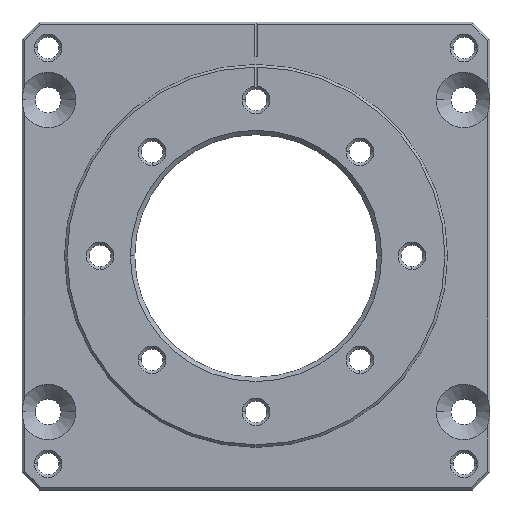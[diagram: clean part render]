
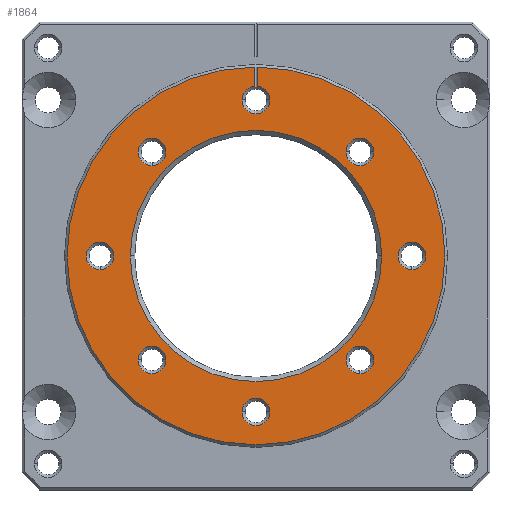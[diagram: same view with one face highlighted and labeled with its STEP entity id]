
A CAD part, top view. The second image highlights one B-rep face of the part: STEP entity #1864.
In plain terms, the highlighted planar face has unit normal (0, 0, 1).
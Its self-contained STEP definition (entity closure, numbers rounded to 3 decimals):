
#258=CARTESIAN_POINT('',(0.,0.,3.));
#259=DIRECTION('',(0.,0.,-1.));
#260=DIRECTION('',(1.,0.,0.));
#261=AXIS2_PLACEMENT_3D('',#258,#259,#260);
#263=CARTESIAN_POINT('',(0.,0.,3.));
#264=DIRECTION('',(0.,0.,-1.));
#265=DIRECTION('',(-1.,0.,0.));
#266=AXIS2_PLACEMENT_3D('',#263,#264,#265);
#268=CARTESIAN_POINT('',(0.,18.,3.));
#269=DIRECTION('',(0.,0.,1.));
#270=DIRECTION('',(-1.,0.,0.));
#271=AXIS2_PLACEMENT_3D('',#268,#269,#270);
#273=CARTESIAN_POINT('',(0.,18.,3.));
#274=DIRECTION('',(0.,0.,1.));
#275=DIRECTION('',(1.,0.,0.));
#276=AXIS2_PLACEMENT_3D('',#273,#274,#275);
#278=DIRECTION('',(0.,-1.,0.));
#279=VECTOR('',#278,2.207);
#280=CARTESIAN_POINT('',(0.15,21.799,3.));
#281=LINE('',#280,#279);
#282=CARTESIAN_POINT('',(0.,0.,3.));
#283=DIRECTION('',(0.,0.,1.));
#284=DIRECTION('',(1.,0.,0.));
#285=AXIS2_PLACEMENT_3D('',#282,#283,#284);
#287=CARTESIAN_POINT('',(0.,0.,3.));
#288=DIRECTION('',(0.,0.,1.));
#289=DIRECTION('',(-1.,0.,0.));
#290=AXIS2_PLACEMENT_3D('',#287,#288,#289);
#292=CARTESIAN_POINT('',(0.,0.,3.));
#293=DIRECTION('',(0.,0.,1.));
#294=DIRECTION('',(-0.007,1.,0.));
#295=AXIS2_PLACEMENT_3D('',#292,#293,#294);
#297=DIRECTION('',(0.,-1.,0.));
#298=VECTOR('',#297,2.207);
#299=CARTESIAN_POINT('',(-0.15,21.799,3.));
#300=LINE('',#299,#298);
#301=CARTESIAN_POINT('',(0.,18.,3.));
#302=DIRECTION('',(0.,0.,1.));
#303=DIRECTION('',(-0.094,0.996,0.));
#304=AXIS2_PLACEMENT_3D('',#301,#302,#303);
#306=CARTESIAN_POINT('',(18.,0.,3.));
#307=DIRECTION('',(0.,0.,1.));
#308=DIRECTION('',(0.,1.,0.));
#309=AXIS2_PLACEMENT_3D('',#306,#307,#308);
#311=CARTESIAN_POINT('',(18.,0.,3.));
#312=DIRECTION('',(0.,0.,1.));
#313=DIRECTION('',(0.,-1.,0.));
#314=AXIS2_PLACEMENT_3D('',#311,#312,#313);
#316=CARTESIAN_POINT('',(0.,-18.,3.));
#317=DIRECTION('',(0.,0.,1.));
#318=DIRECTION('',(1.,0.,0.));
#319=AXIS2_PLACEMENT_3D('',#316,#317,#318);
#321=CARTESIAN_POINT('',(0.,-18.,3.));
#322=DIRECTION('',(0.,0.,1.));
#323=DIRECTION('',(-1.,0.,0.));
#324=AXIS2_PLACEMENT_3D('',#321,#322,#323);
#326=CARTESIAN_POINT('',(-18.,0.,3.));
#327=DIRECTION('',(0.,0.,1.));
#328=DIRECTION('',(0.,-1.,0.));
#329=AXIS2_PLACEMENT_3D('',#326,#327,#328);
#331=CARTESIAN_POINT('',(-18.,0.,3.));
#332=DIRECTION('',(0.,0.,1.));
#333=DIRECTION('',(0.,1.,0.));
#334=AXIS2_PLACEMENT_3D('',#331,#332,#333);
#336=CARTESIAN_POINT('',(12.,12.,3.));
#337=DIRECTION('',(0.,0.,1.));
#338=DIRECTION('',(-1.,0.,0.));
#339=AXIS2_PLACEMENT_3D('',#336,#337,#338);
#341=CARTESIAN_POINT('',(12.,12.,3.));
#342=DIRECTION('',(0.,0.,1.));
#343=DIRECTION('',(1.,0.,0.));
#344=AXIS2_PLACEMENT_3D('',#341,#342,#343);
#346=CARTESIAN_POINT('',(12.,-12.,3.));
#347=DIRECTION('',(0.,0.,1.));
#348=DIRECTION('',(0.,1.,0.));
#349=AXIS2_PLACEMENT_3D('',#346,#347,#348);
#351=CARTESIAN_POINT('',(12.,-12.,3.));
#352=DIRECTION('',(0.,0.,1.));
#353=DIRECTION('',(0.,-1.,0.));
#354=AXIS2_PLACEMENT_3D('',#351,#352,#353);
#356=CARTESIAN_POINT('',(-12.,-12.,3.));
#357=DIRECTION('',(0.,0.,1.));
#358=DIRECTION('',(1.,0.,0.));
#359=AXIS2_PLACEMENT_3D('',#356,#357,#358);
#361=CARTESIAN_POINT('',(-12.,-12.,3.));
#362=DIRECTION('',(0.,0.,1.));
#363=DIRECTION('',(-1.,0.,0.));
#364=AXIS2_PLACEMENT_3D('',#361,#362,#363);
#366=CARTESIAN_POINT('',(-12.,12.,3.));
#367=DIRECTION('',(0.,0.,1.));
#368=DIRECTION('',(0.,-1.,0.));
#369=AXIS2_PLACEMENT_3D('',#366,#367,#368);
#371=CARTESIAN_POINT('',(-12.,12.,3.));
#372=DIRECTION('',(0.,0.,1.));
#373=DIRECTION('',(0.,1.,0.));
#374=AXIS2_PLACEMENT_3D('',#371,#372,#373);
#432=CARTESIAN_POINT('',(0.15,21.799,3.));
#434=CARTESIAN_POINT('',(-0.15,21.799,3.));
#1342=CARTESIAN_POINT('',(-21.8,0.,3.));
#1343=CARTESIAN_POINT('',(21.8,0.,3.));
#1344=VERTEX_POINT('',#1342);
#1345=VERTEX_POINT('',#1343);
#1346=CARTESIAN_POINT('',(14.5,0.,3.));
#1347=CARTESIAN_POINT('',(-14.5,0.,3.));
#1348=VERTEX_POINT('',#1346);
#1349=VERTEX_POINT('',#1347);
#1415=VERTEX_POINT('',#432);
#1416=VERTEX_POINT('',#434);
#1421=CARTESIAN_POINT('',(-1.6,18.,3.));
#1422=CARTESIAN_POINT('',(1.6,18.,3.));
#1423=VERTEX_POINT('',#1421);
#1424=VERTEX_POINT('',#1422);
#1425=CARTESIAN_POINT('',(0.15,19.593,3.));
#1426=VERTEX_POINT('',#1425);
#1427=CARTESIAN_POINT('',(-0.15,19.593,3.));
#1428=VERTEX_POINT('',#1427);
#1438=CARTESIAN_POINT('',(18.,1.6,3.));
#1439=CARTESIAN_POINT('',(18.,-1.6,3.));
#1440=VERTEX_POINT('',#1438);
#1441=VERTEX_POINT('',#1439);
#1450=CARTESIAN_POINT('',(1.6,-18.,3.));
#1451=CARTESIAN_POINT('',(-1.6,-18.,3.));
#1452=VERTEX_POINT('',#1450);
#1453=VERTEX_POINT('',#1451);
#1462=CARTESIAN_POINT('',(-18.,-1.6,3.));
#1463=CARTESIAN_POINT('',(-18.,1.6,3.));
#1464=VERTEX_POINT('',#1462);
#1465=VERTEX_POINT('',#1463);
#1474=CARTESIAN_POINT('',(10.4,12.,3.));
#1475=CARTESIAN_POINT('',(13.6,12.,3.));
#1476=VERTEX_POINT('',#1474);
#1477=VERTEX_POINT('',#1475);
#1486=CARTESIAN_POINT('',(12.,-10.4,3.));
#1487=CARTESIAN_POINT('',(12.,-13.6,3.));
#1488=VERTEX_POINT('',#1486);
#1489=VERTEX_POINT('',#1487);
#1498=CARTESIAN_POINT('',(-10.4,-12.,3.));
#1499=CARTESIAN_POINT('',(-13.6,-12.,3.));
#1500=VERTEX_POINT('',#1498);
#1501=VERTEX_POINT('',#1499);
#1510=CARTESIAN_POINT('',(-12.,10.4,3.));
#1511=CARTESIAN_POINT('',(-12.,13.6,3.));
#1512=VERTEX_POINT('',#1510);
#1513=VERTEX_POINT('',#1511);
#1794=CARTESIAN_POINT('',(0.,0.,3.));
#1795=DIRECTION('',(0.,0.,1.));
#1796=DIRECTION('',(1.,0.,0.));
#1797=AXIS2_PLACEMENT_3D('',#1794,#1795,#1796);
#1798=PLANE('',#1797);
#1800=ORIENTED_EDGE('',*,*,#1799,.T.);
#1802=ORIENTED_EDGE('',*,*,#1801,.T.);
#1804=ORIENTED_EDGE('',*,*,#1803,.F.);
#1806=ORIENTED_EDGE('',*,*,#1805,.F.);
#1808=ORIENTED_EDGE('',*,*,#1807,.F.);
#1810=ORIENTED_EDGE('',*,*,#1809,.F.);
#1812=ORIENTED_EDGE('',*,*,#1811,.T.);
#1814=ORIENTED_EDGE('',*,*,#1813,.T.);
#1815=EDGE_LOOP('',(#1800,#1802,#1804,#1806,#1808,#1810,#1812,#1814));
#1816=FACE_OUTER_BOUND('',#1815,.F.);
#1818=ORIENTED_EDGE('',*,*,#1817,.F.);
#1819=ORIENTED_EDGE('',*,*,#1784,.F.);
#1820=EDGE_LOOP('',(#1818,#1819));
#1821=FACE_BOUND('',#1820,.F.);
#1823=ORIENTED_EDGE('',*,*,#1822,.T.);
#1825=ORIENTED_EDGE('',*,*,#1824,.T.);
#1826=EDGE_LOOP('',(#1823,#1825));
#1827=FACE_BOUND('',#1826,.F.);
#1829=ORIENTED_EDGE('',*,*,#1828,.T.);
#1831=ORIENTED_EDGE('',*,*,#1830,.T.);
#1832=EDGE_LOOP('',(#1829,#1831));
#1833=FACE_BOUND('',#1832,.F.);
#1835=ORIENTED_EDGE('',*,*,#1834,.T.);
#1837=ORIENTED_EDGE('',*,*,#1836,.T.);
#1838=EDGE_LOOP('',(#1835,#1837));
#1839=FACE_BOUND('',#1838,.F.);
#1841=ORIENTED_EDGE('',*,*,#1840,.T.);
#1843=ORIENTED_EDGE('',*,*,#1842,.T.);
#1844=EDGE_LOOP('',(#1841,#1843));
#1845=FACE_BOUND('',#1844,.F.);
#1847=ORIENTED_EDGE('',*,*,#1846,.T.);
#1849=ORIENTED_EDGE('',*,*,#1848,.T.);
#1850=EDGE_LOOP('',(#1847,#1849));
#1851=FACE_BOUND('',#1850,.F.);
#1853=ORIENTED_EDGE('',*,*,#1852,.T.);
#1855=ORIENTED_EDGE('',*,*,#1854,.T.);
#1856=EDGE_LOOP('',(#1853,#1855));
#1857=FACE_BOUND('',#1856,.F.);
#1859=ORIENTED_EDGE('',*,*,#1858,.T.);
#1861=ORIENTED_EDGE('',*,*,#1860,.T.);
#1862=EDGE_LOOP('',(#1859,#1861));
#1863=FACE_BOUND('',#1862,.F.);
#1864=ADVANCED_FACE('',(#1816,#1821,#1827,#1833,#1839,#1845,#1851,#1857,#1863),
#1798,.T.);
#262=CIRCLE('',#261,14.5);
#267=CIRCLE('',#266,14.5);
#272=CIRCLE('',#271,1.6);
#277=CIRCLE('',#276,1.6);
#286=CIRCLE('',#285,21.8);
#291=CIRCLE('',#290,21.8);
#296=CIRCLE('',#295,21.8);
#305=CIRCLE('',#304,1.6);
#310=CIRCLE('',#309,1.6);
#315=CIRCLE('',#314,1.6);
#320=CIRCLE('',#319,1.6);
#325=CIRCLE('',#324,1.6);
#330=CIRCLE('',#329,1.6);
#335=CIRCLE('',#334,1.6);
#340=CIRCLE('',#339,1.6);
#345=CIRCLE('',#344,1.6);
#350=CIRCLE('',#349,1.6);
#355=CIRCLE('',#354,1.6);
#360=CIRCLE('',#359,1.6);
#365=CIRCLE('',#364,1.6);
#370=CIRCLE('',#369,1.6);
#375=CIRCLE('',#374,1.6);
#1784=EDGE_CURVE('',#1349,#1348,#267,.T.);
#1799=EDGE_CURVE('',#1423,#1424,#272,.T.);
#1801=EDGE_CURVE('',#1424,#1426,#277,.T.);
#1803=EDGE_CURVE('',#1415,#1426,#281,.T.);
#1805=EDGE_CURVE('',#1345,#1415,#286,.T.);
#1807=EDGE_CURVE('',#1344,#1345,#291,.T.);
#1809=EDGE_CURVE('',#1416,#1344,#296,.T.);
#1811=EDGE_CURVE('',#1416,#1428,#300,.T.);
#1813=EDGE_CURVE('',#1428,#1423,#305,.T.);
#1817=EDGE_CURVE('',#1348,#1349,#262,.T.);
#1822=EDGE_CURVE('',#1440,#1441,#310,.T.);
#1824=EDGE_CURVE('',#1441,#1440,#315,.T.);
#1828=EDGE_CURVE('',#1452,#1453,#320,.T.);
#1830=EDGE_CURVE('',#1453,#1452,#325,.T.);
#1834=EDGE_CURVE('',#1464,#1465,#330,.T.);
#1836=EDGE_CURVE('',#1465,#1464,#335,.T.);
#1840=EDGE_CURVE('',#1476,#1477,#340,.T.);
#1842=EDGE_CURVE('',#1477,#1476,#345,.T.);
#1846=EDGE_CURVE('',#1488,#1489,#350,.T.);
#1848=EDGE_CURVE('',#1489,#1488,#355,.T.);
#1852=EDGE_CURVE('',#1500,#1501,#360,.T.);
#1854=EDGE_CURVE('',#1501,#1500,#365,.T.);
#1858=EDGE_CURVE('',#1512,#1513,#370,.T.);
#1860=EDGE_CURVE('',#1513,#1512,#375,.T.);
